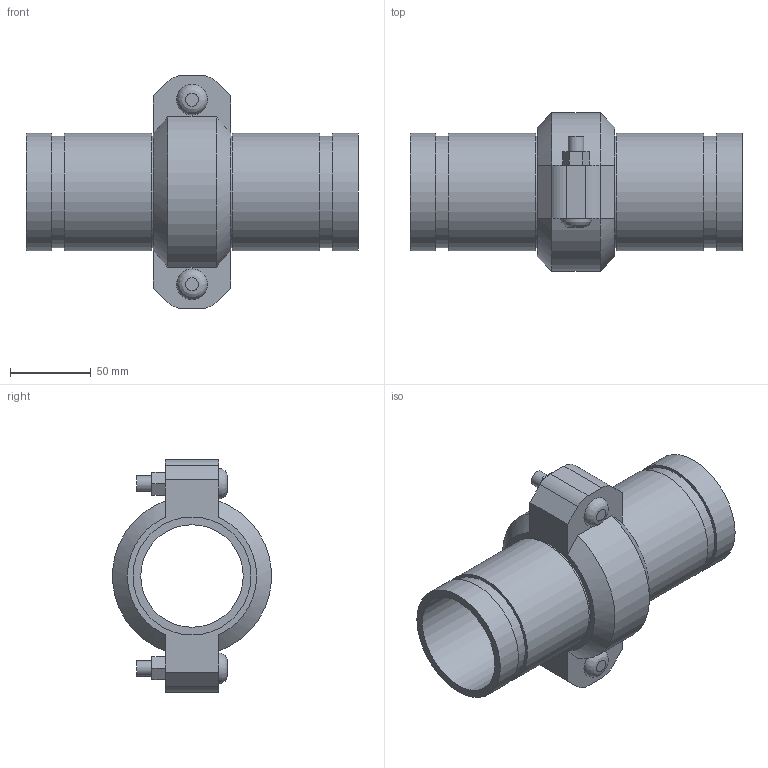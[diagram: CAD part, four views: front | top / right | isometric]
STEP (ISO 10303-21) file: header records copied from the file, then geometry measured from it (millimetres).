
FILE_DESCRIPTION(/* description */ ('VIC SS EXPANSION JOINT 1 COUPLING NEUTRAL STYLE 155P (OGS) (POTABLE WATER) ','CAx-IF Rec.Pracs.---Representation and Presentation of Product Manufacturing Information (PMI)---4.0---2014-10-13'),/* implementation_level */ '2;1');
FILE_NAME(/* name */ 'C:\Users\kkamble\AppData\Roaming\Autodesk\ApplicationPlugins\Victaulic.Temp\A585\Victaulic_SS_Expansion Joint_Neutral_1 Coupling_Style 155P (OGS)-Potable Water_1 Coup_Neut_2.5 (65).stp',/* time_stamp */ '2021-07-16T16:25:46+06:00',/* author */ ('kkamble'),/* organization */ ('Victaulic'),/* preprocessor_version */ 'ST-DEVELOPER v17.2',/* originating_system */ 'Autodesk Inventor 2019',/* authorisation */ '');
FILE_SCHEMA (('AP242_MANAGED_MODEL_BASED_3D_ENGINEERING_MIM_LF { 1 0 10303 442 1 1 4 }'));
Length unit declared in the file: inch
Products named in the file (3): 155P-02.5; Nipple-02.5; 075-02.5
Assembly tree (3 placements, depth 2):
  155P-02.5
    Nipple-02.5  x2
    075-02.5
Bounding box: 205.49 x 98.22 x 144.27 mm (x, y, z)
Volume: 409681.8 mm3; surface area: 138382.3 mm2
Topology: 3 solids, 5 shells, 81 faces, 193 edges, 138 vertices
Faces by surface type: plane 48, cylinder 27, cone 4, bspline 2
Full cylindrical faces by diameter (mm): 9.525 x4, 11.43 x2, 63.475 x2, 66.675 x1, 69.088 x4, 73.025 x8
Entity records: 2292 total; most frequent: CARTESIAN_POINT 420, DIRECTION 369, ORIENTED_EDGE 326, EDGE_CURVE 163, AXIS2_PLACEMENT_3D 141, VERTEX_POINT 114, EDGE_LOOP 89, LINE 87
